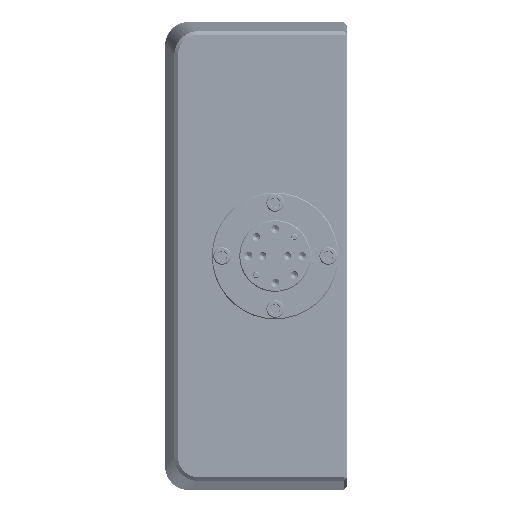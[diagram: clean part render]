
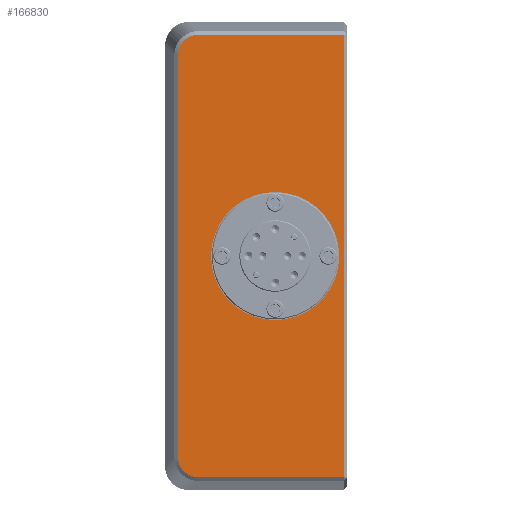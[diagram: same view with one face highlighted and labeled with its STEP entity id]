
A CAD part, left-side view. The second image highlights one B-rep face of the part: STEP entity #166830.
In plain terms, the highlighted planar face has unit normal (-1, 0, 0).
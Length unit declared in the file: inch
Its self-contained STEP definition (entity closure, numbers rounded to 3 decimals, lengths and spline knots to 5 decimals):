
#882 = DIRECTION ( 'NONE',  ( -1., 0., 0. ) ) ;
#3882 = DIRECTION ( 'NONE',  ( 0., 0., 1. ) ) ;
#5638 = B_SPLINE_CURVE_WITH_KNOTS ( 'NONE', 3,
 ( #28762, #27892, #82117, #83008, #42101, #164697, #138874, #123048, #55467, #70524 ),
 .UNSPECIFIED., .F., .F.,
 ( 4, 2, 2, 2, 4 ),
 ( 0., 0.25, 0.5, 0.75, 1. ),
 .UNSPECIFIED. ) ;
#8844 = EDGE_CURVE ( 'NONE', #58860, #136551, #153011, .T. ) ;
#8848 = EDGE_CURVE ( 'NONE', #130920, #113595, #19053, .T. ) ;
#11510 = DIRECTION ( 'NONE',  ( 0., 0., 1. ) ) ;
#12402 = CARTESIAN_POINT ( 'NONE',  ( -2.75, -1.68136, -0.67 ) ) ;
#12412 = CARTESIAN_POINT ( 'NONE',  ( -2.75, -0.66628, -2.1034 ) ) ;
#13092 = VERTEX_POINT ( 'NONE', #171464 ) ;
#14167 = CARTESIAN_POINT ( 'NONE',  ( -2.75, -0.69251, -2.20886 ) ) ;
#19053 = B_SPLINE_CURVE_WITH_KNOTS ( 'NONE', 3,
 ( #12412, #39170, #135044, #14167, #93372, #135885, #174121, #80021, #120068, #94247 ),
 .UNSPECIFIED., .F., .F.,
 ( 4, 2, 2, 2, 4 ),
 ( 0., 0.25, 0.5, 0.75, 1. ),
 .UNSPECIFIED. ) ;
#21391 = FACE_OUTER_BOUND ( 'NONE', #87212, .T. ) ;
#22480 = CARTESIAN_POINT ( 'NONE',  ( -2.75, -1.48136, -2.31232 ) ) ;
#24452 = ORIENTED_EDGE ( 'NONE', *, *, #8848, .T. ) ;
#26854 = EDGE_CURVE ( 'NONE', #152359, #29654, #5638, .T. ) ;
#27286 = DIRECTION ( 'NONE',  ( 0., 0., -1. ) ) ;
#27892 = CARTESIAN_POINT ( 'NONE',  ( -2.75, -0.84772, 2.31233 ) ) ;
#28762 = CARTESIAN_POINT ( 'NONE',  ( -2.75, -0.8752, 2.31232 ) ) ;
#29654 = VERTEX_POINT ( 'NONE', #81939 ) ;
#37453 = DIRECTION ( 'NONE',  ( 1., 0., 0. ) ) ;
#38802 = CARTESIAN_POINT ( 'NONE',  ( -2.75, -0.8752, 2.31232 ) ) ;
#39170 = CARTESIAN_POINT ( 'NONE',  ( -2.75, -0.66628, -2.13089 ) ) ;
#39582 = AXIS2_PLACEMENT_3D ( 'NONE', #116578, #882, #11510 ) ;
#42101 = CARTESIAN_POINT ( 'NONE',  ( -2.75, -0.74651, 2.2706 ) ) ;
#43335 = ORIENTED_EDGE ( 'NONE', *, *, #137536, .T. ) ;
#43721 = LINE ( 'NONE', #163669, #125529 ) ;
#44788 = CARTESIAN_POINT ( 'NONE',  ( -2.75, -2.40136, 0. ) ) ;
#46514 = VECTOR ( 'NONE', #78520, 39.37008 ) ;
#48089 = VECTOR ( 'NONE', #3882, 39.37008 ) ;
#49890 = DIRECTION ( 'NONE',  ( 0., 0., -1. ) ) ;
#55467 = CARTESIAN_POINT ( 'NONE',  ( -2.75, -0.66628, 2.13095 ) ) ;
#58603 = AXIS2_PLACEMENT_3D ( 'NONE', #160863, #37453, #49890 ) ;
#58860 = VERTEX_POINT ( 'NONE', #59732 ) ;
#59732 = CARTESIAN_POINT ( 'NONE',  ( -2.75, -1.68136, 0.67 ) ) ;
#66924 = ORIENTED_EDGE ( 'NONE', *, *, #71340, .F. ) ;
#67035 = EDGE_CURVE ( 'NONE', #139890, #152359, #43721, .T. ) ;
#70270 = ORIENTED_EDGE ( 'NONE', *, *, #94458, .T. ) ;
#70524 = CARTESIAN_POINT ( 'NONE',  ( -2.75, -0.66628, 2.1034 ) ) ;
#71340 = EDGE_CURVE ( 'NONE', #136551, #58860, #172028, .T. ) ;
#73384 = CARTESIAN_POINT ( 'NONE',  ( -2.75, -2.40136, 2.31232 ) ) ;
#75436 = CARTESIAN_POINT ( 'NONE',  ( -2.75, -0.8752, -2.31232 ) ) ;
#78520 = DIRECTION ( 'NONE',  ( 0., -1., 0. ) ) ;
#80021 = CARTESIAN_POINT ( 'NONE',  ( -2.75, -0.82021, -2.30689 ) ) ;
#81939 = CARTESIAN_POINT ( 'NONE',  ( -2.75, -0.66628, 2.1034 ) ) ;
#82117 = CARTESIAN_POINT ( 'NONE',  ( -2.75, -0.82022, 2.30689 ) ) ;
#82571 = EDGE_LOOP ( 'NONE', ( #162021, #66924 ) ) ;
#83008 = CARTESIAN_POINT ( 'NONE',  ( -2.75, -0.76974, 2.28609 ) ) ;
#86892 = DIRECTION ( 'NONE',  ( 0., 0., 1. ) ) ;
#87212 = EDGE_LOOP ( 'NONE', ( #24452, #43335, #70270, #151620, #125395, #155659 ) ) ;
#92060 = EDGE_CURVE ( 'NONE', #29654, #130920, #95727, .T. ) ;
#93372 = CARTESIAN_POINT ( 'NONE',  ( -2.75, -0.70801, -2.2321 ) ) ;
#94247 = CARTESIAN_POINT ( 'NONE',  ( -2.75, -0.8752, -2.31232 ) ) ;
#94458 = EDGE_CURVE ( 'NONE', #13092, #139890, #141505, .T. ) ;
#95727 = LINE ( 'NONE', #149858, #106718 ) ;
#101128 = CARTESIAN_POINT ( 'NONE',  ( -2.75, -1.68136, 0. ) ) ;
#106718 = VECTOR ( 'NONE', #27286, 39.37008 ) ;
#113595 = VERTEX_POINT ( 'NONE', #75436 ) ;
#116578 = CARTESIAN_POINT ( 'NONE',  ( -2.75, -1.68136, 0. ) ) ;
#120068 = CARTESIAN_POINT ( 'NONE',  ( -2.75, -0.84766, -2.31233 ) ) ;
#121092 = AXIS2_PLACEMENT_3D ( 'NONE', #101128, #165923, #86892 ) ;
#123048 = CARTESIAN_POINT ( 'NONE',  ( -2.75, -0.67171, 2.15839 ) ) ;
#125395 = ORIENTED_EDGE ( 'NONE', *, *, #26854, .T. ) ;
#125529 = VECTOR ( 'NONE', #126370, 39.37008 ) ;
#126370 = DIRECTION ( 'NONE',  ( 0., 1., 0. ) ) ;
#129014 = PLANE ( 'NONE',  #58603 ) ;
#130920 = VERTEX_POINT ( 'NONE', #173826 ) ;
#132659 = LINE ( 'NONE', #22480, #46514 ) ;
#135044 = CARTESIAN_POINT ( 'NONE',  ( -2.75, -0.67172, -2.15839 ) ) ;
#135885 = CARTESIAN_POINT ( 'NONE',  ( -2.75, -0.7465, -2.27061 ) ) ;
#136551 = VERTEX_POINT ( 'NONE', #12402 ) ;
#137536 = EDGE_CURVE ( 'NONE', #113595, #13092, #132659, .T. ) ;
#138874 = CARTESIAN_POINT ( 'NONE',  ( -2.75, -0.69252, 2.20886 ) ) ;
#139890 = VERTEX_POINT ( 'NONE', #73384 ) ;
#141505 = LINE ( 'NONE', #44788, #48089 ) ;
#149858 = CARTESIAN_POINT ( 'NONE',  ( -2.75, -0.66628, 0. ) ) ;
#151620 = ORIENTED_EDGE ( 'NONE', *, *, #67035, .T. ) ;
#152359 = VERTEX_POINT ( 'NONE', #38802 ) ;
#153011 = CIRCLE ( 'NONE', #39582, 0.67 ) ;
#155659 = ORIENTED_EDGE ( 'NONE', *, *, #92060, .T. ) ;
#160863 = CARTESIAN_POINT ( 'NONE',  ( -2.75, -1.48136, 0. ) ) ;
#162021 = ORIENTED_EDGE ( 'NONE', *, *, #8844, .F. ) ;
#163669 = CARTESIAN_POINT ( 'NONE',  ( -2.75, -1.48136, 2.31232 ) ) ;
#164697 = CARTESIAN_POINT ( 'NONE',  ( -2.75, -0.708, 2.2321 ) ) ;
#165923 = DIRECTION ( 'NONE',  ( -1., 0., 0. ) ) ;
#166830 = ADVANCED_FACE ( 'NONE', ( #21391, #170627 ), #129014, .F. ) ;
#170627 = FACE_BOUND ( 'NONE', #82571, .T. ) ;
#171464 = CARTESIAN_POINT ( 'NONE',  ( -2.75, -2.40136, -2.31232 ) ) ;
#172028 = CIRCLE ( 'NONE', #121092, 0.67 ) ;
#173826 = CARTESIAN_POINT ( 'NONE',  ( -2.75, -0.66628, -2.1034 ) ) ;
#174121 = CARTESIAN_POINT ( 'NONE',  ( -2.75, -0.76974, -2.28609 ) ) ;
